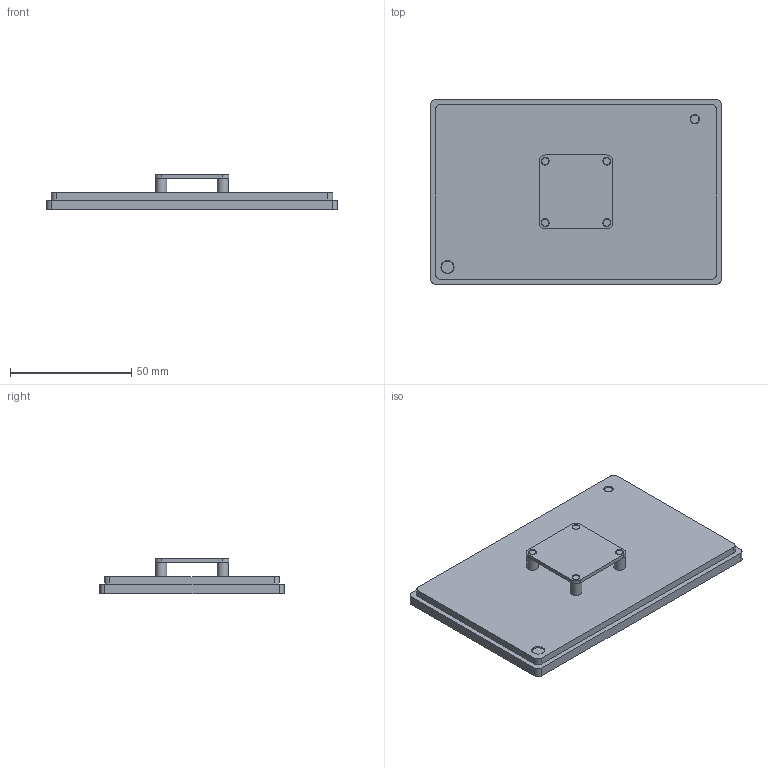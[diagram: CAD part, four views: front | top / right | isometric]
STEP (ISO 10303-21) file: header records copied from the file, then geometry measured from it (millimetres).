
FILE_DESCRIPTION(('Open CASCADE Model'),'2;1');
FILE_NAME('Open CASCADE Shape Model','2026-11-18T17:24:20',('Author'),( 'Open CASCADE'),'Open CASCADE STEP processor 7.8','Open CASCADE 7.8' ,'Unknown');
FILE_SCHEMA(('AUTOMOTIVE_DESIGN { 1 0 10303 214 1 1 1 1 }'));
Length unit declared in the file: millimetre
Products named in the file (4): d58da08a-e331-11f1-a76a-e454e8535259; dock; carrier; bare_board_reference
Assembly tree (3 placements, depth 2):
  d58da08a-e331-11f1-a76a-e454e8535259
    dock
    carrier
    bare_board_reference
Bounding box: 120 x 76 x 14.6 mm (x, y, z)
Volume: 63341.9 mm3; surface area: 40121.4 mm2
Topology: 3 solids, 3 shells, 56 faces, 120 edges, 80 vertices
Faces by surface type: plane 28, cylinder 28
Full cylindrical faces by diameter (mm): 2.902 x4, 3.302 x4, 3.5 x1, 3.9 x1, 4.6 x4, 5 x1, 5.4 x1
Entity records: 3259 total; most frequent: CARTESIAN_POINT 596, DIRECTION 520, LINE 248, VECTOR 248, ORIENTED_EDGE 240, PCURVE 240, DEFINITIONAL_REPRESENTATION 240, EDGE_CURVE 120
